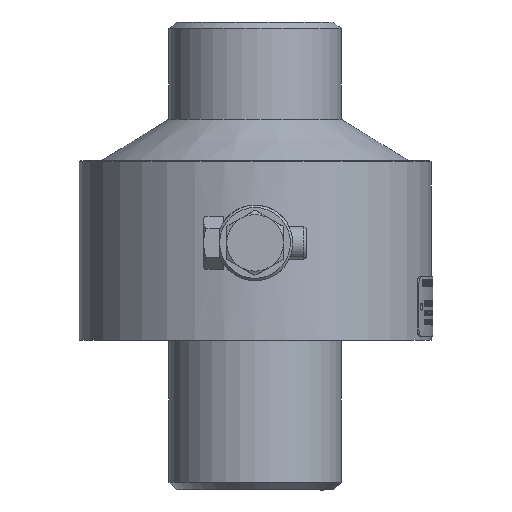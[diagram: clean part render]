
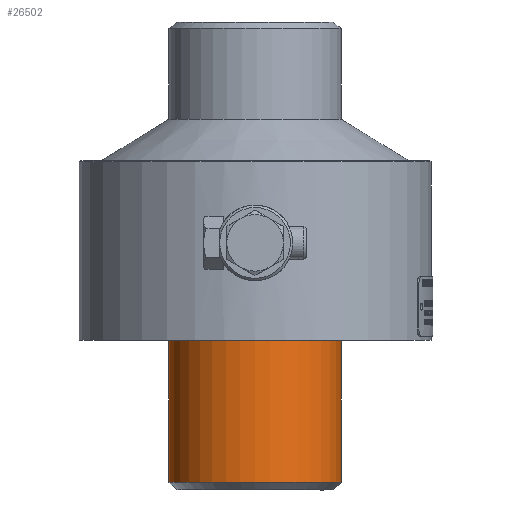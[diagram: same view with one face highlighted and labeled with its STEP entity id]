
A CAD part, front view. The second image highlights one B-rep face of the part: STEP entity #26502.
In plain terms, the highlighted cylindrical face has radius 36.513 mm (diameter 73.025 mm), a full revolution.
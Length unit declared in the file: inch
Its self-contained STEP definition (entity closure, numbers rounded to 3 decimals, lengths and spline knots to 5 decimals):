
#3254=FACE_BOUND('',#5737,.T.);
#4218=FACE_OUTER_BOUND('',#5736,.T.);
#5736=EDGE_LOOP('',(#18727));
#5737=EDGE_LOOP('',(#18728));
#7383=CIRCLE('',#28090,1.4375);
#7391=CIRCLE('',#28106,1.4375);
#12036=VERTEX_POINT('',#35383);
#12044=VERTEX_POINT('',#35407);
#14685=EDGE_CURVE('',#12036,#12036,#7383,.T.);
#14693=EDGE_CURVE('',#12044,#12044,#7391,.T.);
#18727=ORIENTED_EDGE('',*,*,#14685,.F.);
#18728=ORIENTED_EDGE('',*,*,#14693,.T.);
#26290=CYLINDRICAL_SURFACE('',#28107,1.4375);
#26502=ADVANCED_FACE('',(#4218,#3254),#26290,.T.);
#28090=AXIS2_PLACEMENT_3D('',#35384,#29905,#29906);
#28106=AXIS2_PLACEMENT_3D('',#35408,#29937,#29938);
#28107=AXIS2_PLACEMENT_3D('',#35409,#29939,#29940);
#29905=DIRECTION('center_axis',(0.,-1.,0.));
#29906=DIRECTION('ref_axis',(1.,0.,0.));
#29937=DIRECTION('center_axis',(0.,-1.,0.));
#29938=DIRECTION('ref_axis',(1.,0.,0.));
#29939=DIRECTION('center_axis',(0.,-1.,0.));
#29940=DIRECTION('ref_axis',(1.,0.,0.));
#35383=CARTESIAN_POINT('',(1.4375,2.87262,0.));
#35384=CARTESIAN_POINT('Origin',(0.,2.87262,0.));
#35407=CARTESIAN_POINT('',(1.4375,5.37451,0.));
#35408=CARTESIAN_POINT('Origin',(0.,5.37451,0.));
#35409=CARTESIAN_POINT('Origin',(0.,4.12356,0.));
